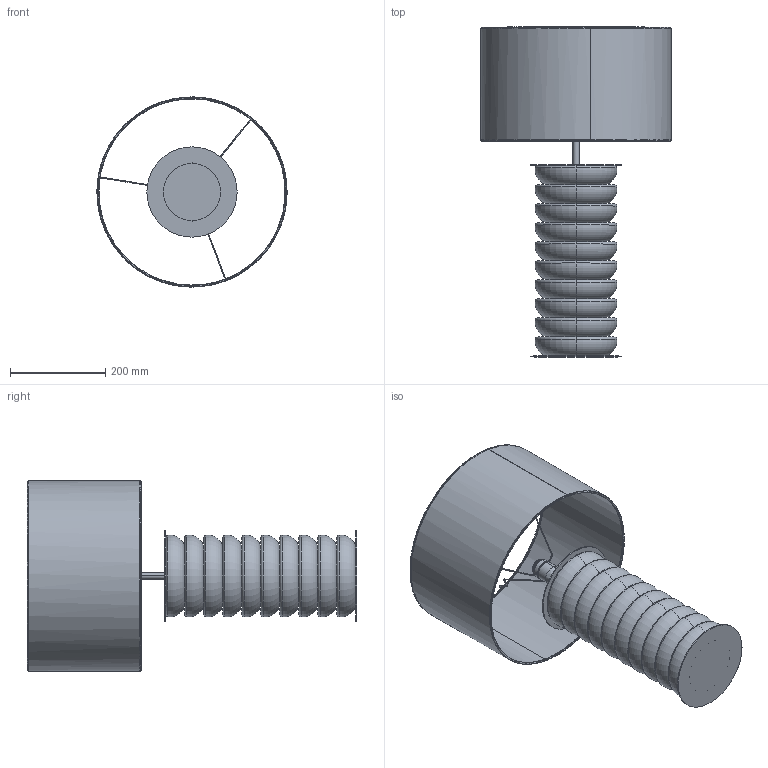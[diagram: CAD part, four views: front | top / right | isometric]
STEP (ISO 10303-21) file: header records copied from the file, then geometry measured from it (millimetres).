
FILE_DESCRIPTION (( 'STEP AP214' ), '1' );
FILE_NAME ('DENTE_NAC151.STEP', '2026-06-18T11:46:22', ( '' ), ( '' ), 'SwSTEP 2.0', 'SolidWorks 2023', '' );
FILE_SCHEMA (( 'AUTOMOTIVE_DESIGN' ));
Length unit declared in the file: millimetre
Products named in the file (5): Shade; DENTE_NAC151; plato 2; Base 19; base ceramica platos
Assembly tree (14 placements, depth 3):
  DENTE_NAC151
    base ceramica platos
      plato 2  x10
    Shade
    Base 19  x2
Bounding box: 399.95 x 694 x 399.97 mm (x, y, z)
Volume: 8341542.6 mm3; surface area: 1359152.2 mm2
Topology: 12 solids, 34 shells, 229 faces, 653 edges, 459 vertices
Faces by surface type: bspline 161, torus 40, plane 24, cylinder 4
Entity records: 13756 total; most frequent: CARTESIAN_POINT 10708, ORIENTED_EDGE 922, EDGE_CURVE 561, VERTEX_POINT 404, B_SPLINE_CURVE_WITH_KNOTS 250, EDGE_LOOP 176, FACE_OUTER_BOUND 171, ADVANCED_FACE 171
